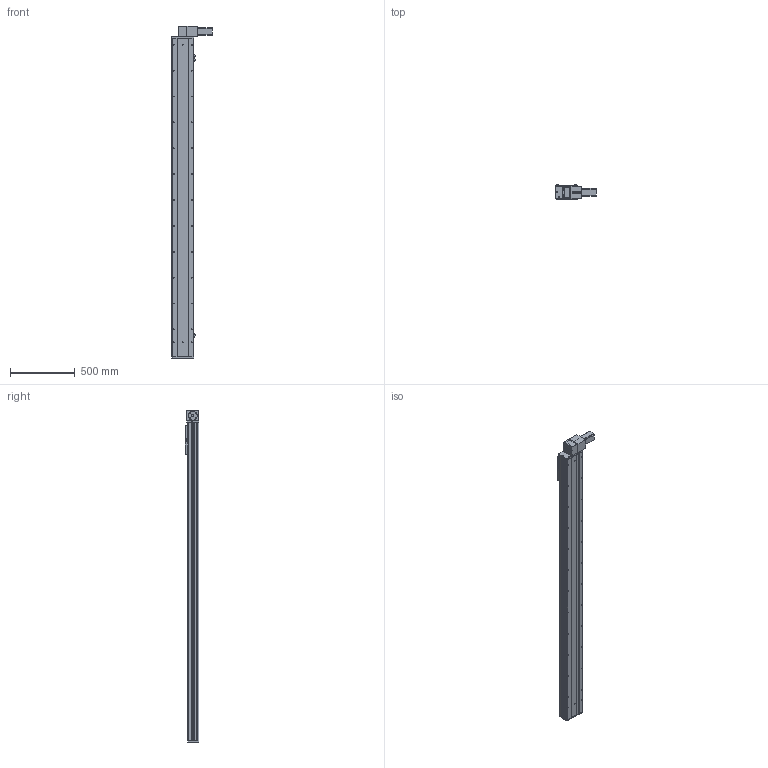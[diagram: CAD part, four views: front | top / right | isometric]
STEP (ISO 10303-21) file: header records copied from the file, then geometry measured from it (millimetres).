
FILE_DESCRIPTION (( 'STEP AP203' ), '1' );
FILE_NAME ('Y170CB-D105-S2150-BD-P400W.STEP', '2020-02-20T09:03:05', ( '微软用户' ), ( '微软中国' ), 'SwSTEP 2.0', 'SolidWorks 2017', '' );
FILE_SCHEMA (( 'CONFIG_CONTROL_DESIGN' ));
Length unit declared in the file: millimetre
Products named in the file (16): B-源倛裔啣; 70CB-詩湍--; san松下电机400不带刹车----; Y100-135俋离換覜ん--; 70CB-掛极-; Y170CB-陔俋离換覜結え---; --70CB --喘謫眊楊擘啣-; Y1埴倛裔; 70CB-耜裔啣-; 70B喘謫眊----; 70C--詩湍揤踡え-; 0B薊粣ん眊-400W--; 70CB--耜裔; Y170CB-D105-S2150-BD-P400W; 70C-雄赽釱-奻-; 0C--雄赽釱俋欶-170
Assembly tree (19 placements, depth 2):
  Y170CB-D105-S2150-BD-P400W
    B-源倛裔啣
    san松下电机400不带刹车----
    70CB-掛极-
    --70CB --喘謫眊楊擘啣-
    70CB-耜裔啣-  x2
    70C--詩湍揤踡え-  x2
    70CB--耜裔
    70C-雄赽釱-奻-
    0C--雄赽釱俋欶-170
    70CB-詩湍--
    Y100-135俋离換覜ん--  x3
    Y170CB-陔俋离換覜結え---
    Y1埴倛裔
    70B喘謫眊----
    0B薊粣ん眊-400W--
Bounding box: 313.5 x 107 x 2566 mm (x, y, z)
Volume: 11354496.5 mm3; surface area: 3964624.1 mm2
Topology: 19 solids, 19 shells, 968 faces, 2570 edges, 1704 vertices
Faces by surface type: cylinder 522, plane 422, cone 24
Entity records: 30471 total; most frequent: CARTESIAN_POINT 5686, DIRECTION 4959, ORIENTED_EDGE 4622, EDGE_CURVE 2311, AXIS2_PLACEMENT_3D 1841, VERTEX_POINT 1534, LINE 1277, VECTOR 1277
